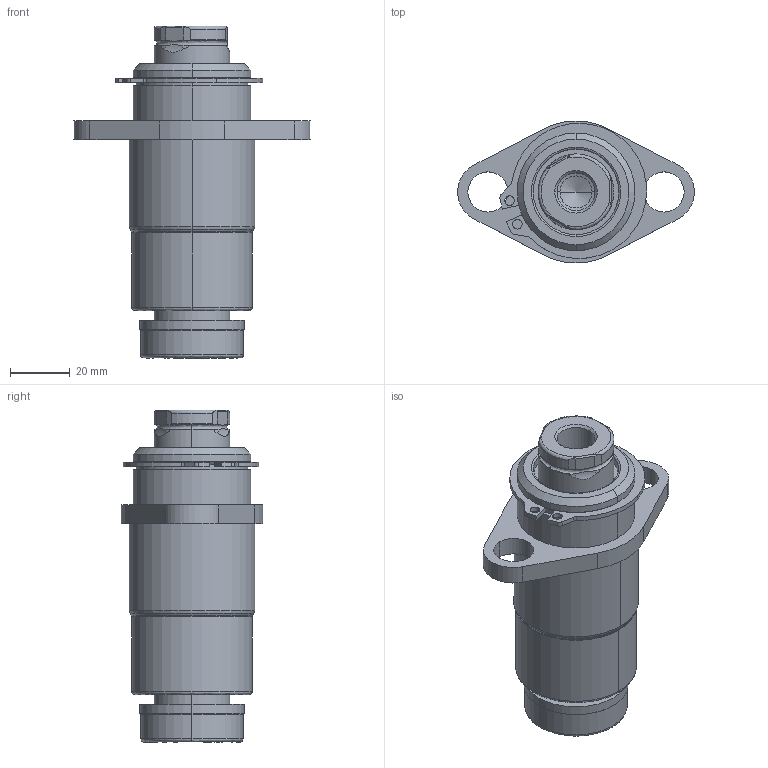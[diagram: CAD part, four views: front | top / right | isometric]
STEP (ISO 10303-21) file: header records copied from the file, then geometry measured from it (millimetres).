
FILE_DESCRIPTION (( 'STEP AP214' ), '1' );
FILE_NAME ('GK105-N3-1-TB-E-XXX.STEP', '2020-09-21T13:31:17', ( '' ), ( '' ), 'SwSTEP 2.0', 'SolidWorks 2017', '' );
FILE_SCHEMA (( 'AUTOMOTIVE_DESIGN' ));
Length unit declared in the file: inch
Products named in the file (7): RetainingRing; GK105-DampeningWasher; GK105-E-XXX-GuidePin; GK105-N3-1-TB-E-XXX; GK1.00-N3-1-TB-Base
Assembly tree (6 placements, depth 3):
  GK105-N3-1-TB-E-XXX
    GK1.00-N3-1-TB-Base
      GK1.00-N3-1-TB-Base
      RetainingRing
    GK105-E-XXX-GuidePin
      GK105-E-XXX-GuidePin
      GK105-DampeningWasher
Bounding box: 79.18 x 47.5 x 111.12 mm (x, y, z)
Volume: 128450.3 mm3; surface area: 36657 mm2
Topology: 4 solids, 4 shells, 132 faces, 326 edges, 207 vertices
Faces by surface type: cylinder 61, plane 36, bspline 23, cone 12
Entity records: 5177 total; most frequent: CARTESIAN_POINT 1698, ORIENTED_EDGE 648, DIRECTION 631, EDGE_CURVE 324, AXIS2_PLACEMENT_3D 258, VERTEX_POINT 207, EDGE_LOOP 151, CIRCLE 138
